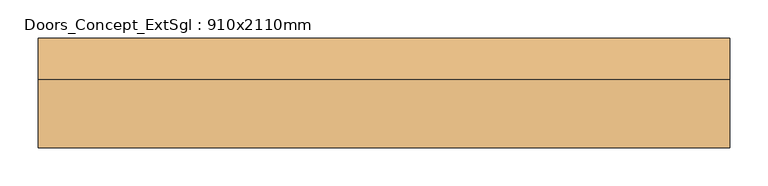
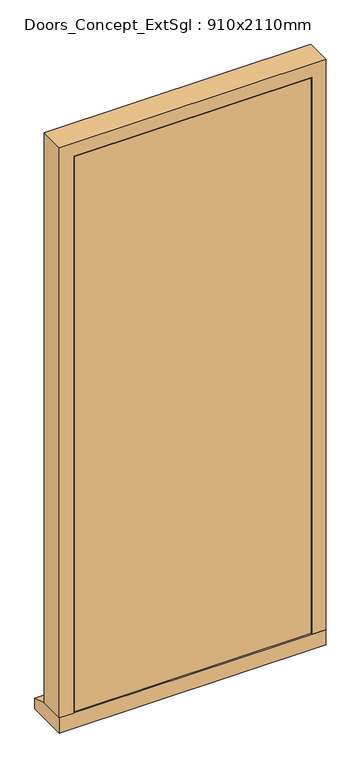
"""IFC4 building model written with IfcOpenShell, lengths in millimetres: door geometry, Doors_Concept_ExtSgl : 910x2110mm."""

import ifcopenshell
import ifcopenshell.guid

model = None  # the IFC model being written
_history = None  # IfcOwnerHistory: only IFC2X3 demands one
_inside = {}  # id of a spatial element -> (the spatial element, [elements in it])
_under = {}  # id of a project, library or spatial element -> (it, [spatial elements below it])
_declared = {}  # id of a project -> (the project, [libraries it declares])
_typed = {}  # id of a type object -> (the type object, [elements of that type])
_made_of = {}  # id of a material, layer set ... -> (it, [elements and type objects made of it])


def new_model(schema):
    """Start an empty IFC model of exactly this schema.

    Asked for "IFC4X3", IfcOpenShell would pick the latest addendum, in which some entities
    have other attributes; the version numbers below select the first issue.
    IFC2X3 requires an IfcOwnerHistory on every rooted entity: one is made here for all.
    """
    global model, _history
    if schema == "IFC4X3":
        model = ifcopenshell.file(schema_version=(4, 3, 0, 0))
    else:
        model = ifcopenshell.file(schema=schema)
    _inside.clear()
    _under.clear()
    _declared.clear()
    _typed.clear()
    _made_of.clear()
    _history = None
    if model.schema == "IFC2X3":
        org = make("IfcOrganization", Name="unknown")
        user = make(
            "IfcPersonAndOrganization",
            ThePerson=make("IfcPerson", FamilyName="unknown"),
            TheOrganization=org,
        )
        app = make(
            "IfcApplication",
            ApplicationDeveloper=org,
            Version="unknown",
            ApplicationFullName="unknown",
            ApplicationIdentifier="unknown",
        )
        _history = make(
            "IfcOwnerHistory",
            OwningUser=user,
            OwningApplication=app,
            ChangeAction="ADDED",
            CreationDate=0,
        )
    return model


def make(cls, **values):
    """One entity of the class cls with the attributes given. An attribute that is None is left unset."""
    return model.create_entity(
        cls, **{name: value for name, value in values.items() if value is not None}
    )


def rooted(cls, **values):
    """An entity with a GlobalId (a new one), such as an element, a storey or a relation."""
    return make(cls, GlobalId=ifcopenshell.guid.new(), OwnerHistory=_history, **values)


def si_unit(unit_type, name, prefix=None):
    """IfcSIUnit, for example si_unit("LENGTHUNIT", "METRE", prefix="MILLI")."""
    return make("IfcSIUnit", UnitType=unit_type, Prefix=prefix, Name=name)


def assignment(units):
    """IfcUnitAssignment: the units of a project."""
    return None if units is None else make("IfcUnitAssignment", Units=units)


def point(xyz):
    """IfcCartesianPoint."""
    return None if xyz is None else make("IfcCartesianPoint", Coordinates=xyz)


def direction(xyz):
    """IfcDirection."""
    return None if xyz is None else make("IfcDirection", DirectionRatios=xyz)


def frame(location, z_axis=None, x_axis=None):
    """IfcAxis2Placement3D, a coordinate frame: its origin and axes. An axis left out is left unset."""
    return make(
        "IfcAxis2Placement3D",
        Location=point(location),
        Axis=direction(z_axis),
        RefDirection=direction(x_axis),
    )


def origin():
    """The frame at (0, 0, 0) with its axes left unset."""
    return frame((0.0, 0.0, 0.0))


def place(relative_to, where):
    """IfcLocalPlacement: puts the frame where relative to a parent placement (None: the world)."""
    return make(
        "IfcLocalPlacement", PlacementRelTo=relative_to, RelativePlacement=where
    )


def context(
    kind, dimensions, precision=None, world=None, true_north=None, identifier=None
):
    """IfcGeometricRepresentationContext, for example the 3D "Model" context."""
    return make(
        "IfcGeometricRepresentationContext",
        ContextIdentifier=identifier,
        ContextType=kind,
        CoordinateSpaceDimension=dimensions,
        Precision=precision,
        WorldCoordinateSystem=world,
        TrueNorth=true_north,
    )


def project(units=None, contexts=None):
    """IfcProject with its units and contexts."""
    return rooted(
        "IfcProject",
        Name="project",
        RepresentationContexts=contexts,
        UnitsInContext=assignment(units),
    )


def spatial(cls, under=None, at=None, **own):
    """A site, building, storey or space (cls), placed at a placement, below another one or the project."""
    s = rooted(cls, ObjectPlacement=at, **own)
    if under is not None:
        _under.setdefault(under.id(), (under, []))[1].append(s)
    return s


def polyline(points):
    """IfcPolyline through the points."""
    return make("IfcPolyline", Points=[point(p) for p in points])


def outline(outer, holes=None, kind="AREA"):
    """IfcArbitraryClosedProfileDef: a profile drawn as a closed curve; with holes, ...WithVoids."""
    if holes is None:
        return make("IfcArbitraryClosedProfileDef", ProfileType=kind, OuterCurve=outer)
    return make(
        "IfcArbitraryProfileDefWithVoids",
        ProfileType=kind,
        OuterCurve=outer,
        InnerCurves=holes,
    )


def extrude(swept, where, along, depth):
    """IfcExtrudedAreaSolid: the profile swept, set in the frame where, extruded along a direction by depth."""
    return make(
        "IfcExtrudedAreaSolid",
        SweptArea=swept,
        Position=where,
        ExtrudedDirection=direction(along),
        Depth=depth,
    )


def faces_of(points, faces, orient=None, outer=None):
    """IfcFace entities. A face is a list of loops; a loop is a list of indices into points, from 0.

    orient and outer hold one flag for each loop. By default every Orientation is true, the
    first loop of a face is its IfcFaceOuterBound and the others are IfcFaceBound.
    """
    made = []
    for i, loops in enumerate(faces):
        bounds = []
        for j, loop in enumerate(loops):
            is_outer = j == 0 if outer is None else outer[i][j]
            bounds.append(
                make(
                    "IfcFaceOuterBound" if is_outer else "IfcFaceBound",
                    Bound=make("IfcPolyLoop", Polygon=[points[k] for k in loop]),
                    Orientation=True if orient is None else orient[i][j],
                )
            )
        made.append(make("IfcFace", Bounds=bounds))
    return made


def faceted_brep(points, faces, orient=None, outer=None, voids=None):
    """IfcFacetedBrep: a solid bounded by flat faces; with voids (closed shells), ...WithVoids."""
    shared = [point(p) for p in points]
    hull = make("IfcClosedShell", CfsFaces=faces_of(shared, faces, orient, outer))
    if voids is None:
        return make("IfcFacetedBrep", Outer=hull)
    return make(
        "IfcFacetedBrepWithVoids",
        Outer=hull,
        Voids=[
            make(cls, CfsFaces=faces_of(shared, fs, o, b)) for cls, fs, o, b in voids
        ],
    )


def shape(context_of_items, identifier, shape_type, items):
    """IfcShapeRepresentation: the items that make up one representation, for example the "Body"."""
    return make(
        "IfcShapeRepresentation",
        ContextOfItems=context_of_items,
        RepresentationIdentifier=identifier,
        RepresentationType=shape_type,
        Items=items,
    )


def source(mapping_origin, context_of_items, identifier, shape_type, items):
    """IfcRepresentationMap: a shape defined once, which mapped items show again and again."""
    return make(
        "IfcRepresentationMap",
        MappingOrigin=mapping_origin,
        MappedRepresentation=shape(context_of_items, identifier, shape_type, items),
    )


def transform(
    local_origin,
    x_axis=None,
    y_axis=None,
    z_axis=None,
    scale=None,
    scale2=None,
    scale3=None,
    uniform=True,
):
    """IfcCartesianTransformationOperator3D, or its non-uniform kind. x_axis, y_axis, z_axis: its Axis1, 2, 3."""
    if uniform:
        return make(
            "IfcCartesianTransformationOperator3D",
            Axis1=direction(x_axis),
            Axis2=direction(y_axis),
            LocalOrigin=point(local_origin),
            Scale=scale,
            Axis3=direction(z_axis),
        )
    return make(
        "IfcCartesianTransformationOperator3DnonUniform",
        Axis1=direction(x_axis),
        Axis2=direction(y_axis),
        LocalOrigin=point(local_origin),
        Scale=scale,
        Axis3=direction(z_axis),
        Scale2=scale2,
        Scale3=scale3,
    )


def mapped(mapping_source, mapping_target):
    """IfcMappedItem: shows the shape of a source again, moved by a transform."""
    return make(
        "IfcMappedItem", MappingSource=mapping_source, MappingTarget=mapping_target
    )


def made_of(thing, what):
    """Note that an element or type object is made of a material, layer set ...; save() writes the relation."""
    if what is not None:
        _made_of.setdefault(what.id(), (what, []))[1].append(thing)
    return thing


def element(
    cls,
    number,
    at=None,
    inside=None,
    cuts=None,
    type_object=None,
    material=None,
    context=None,
    identifier="Body",
    shape_type=None,
    held_by="IfcProductDefinitionShape",
    body=None,
    shapes=None,
    **own,
):
    """One element of the class cls, such as IfcWall. Its Tag is "e" and its number.

    at: its placement. inside: the storey or other place that contains it. cuts: it is an
    opening in that element (IfcRelVoidsElement). A single representation is given by context,
    identifier, shape_type and body (its items); several are given by shapes. held_by: the class
    of the entity that holds the representations. save() writes the other relations.
    """
    e = rooted(cls, Tag="e%d" % number, ObjectPlacement=at, **own)
    if body is not None:
        shapes = [shape(context, identifier, shape_type, body)]
    if shapes is not None:
        e.Representation = make(held_by, Representations=shapes)
    if inside is not None:
        _inside.setdefault(inside.id(), (inside, []))[1].append(e)
    if cuts is not None:
        rooted(
            "IfcRelVoidsElement", RelatingBuildingElement=cuts, RelatedOpeningElement=e
        )
    if type_object is not None:
        _typed.setdefault(type_object.id(), (type_object, []))[1].append(e)
    return made_of(e, material)


def aggregate(whole, parts):
    """IfcRelAggregates: a whole, such as a stair, and the parts it consists of."""
    return rooted("IfcRelAggregates", RelatingObject=whole, RelatedObjects=parts)


def save(model, path):
    """Write the relations noted so far, then the file.

    IfcRelAggregates (storeys below a building ...), IfcRelContainedInSpatialStructure (elements
    in a storey), IfcRelDefinesByType, IfcRelAssociatesMaterial and IfcRelDeclares: one each for
    every whole, place, type object, material and project.
    """
    for whole, parts in _under.values():
        aggregate(whole, parts)
    for where, things in _inside.values():
        rooted(
            "IfcRelContainedInSpatialStructure",
            RelatedElements=things,
            RelatingStructure=where,
        )
    for kind, things in _typed.values():
        rooted("IfcRelDefinesByType", RelatedObjects=things, RelatingType=kind)
    for what, things in _made_of.values():
        rooted("IfcRelAssociatesMaterial", RelatedObjects=things, RelatingMaterial=what)
    for by, libraries in _declared.values():
        rooted("IfcRelDeclares", RelatingContext=by, RelatedDefinitions=libraries)
    model.write(path)


def doors_concept_extsgl_910x2110mm_b510a08d(model_context):
    return source(origin(), model_context, "Body", "SolidModel", [
        faceted_brep([(384.5, 75.0, 54.5), (455.0, 75.0, 54.5), (455.0, -14.0, 54.5), (406.5, -14.0, 54.5), (406.5, 33.0, 54.5), (384.5, 33.0, 54.5), (384.5, 75.0, 2039.5), (-384.5, 75.0, 2039.5), (-384.5, 75.0, 54.5), (-455.0, 75.0, 54.5), (-455.0, 75.0, 2110.0), (455.0, 75.0, 2110.0), (455.0, -14.0, 2110.0), (-455.0, -14.0, 2110.0), (-455.0, -14.0, 54.5), (-406.5, -14.0, 54.5), (-406.5, -14.0, 2061.5), (406.5, -14.0, 2061.5), (406.5, 33.0, 2061.5), (-406.5, 33.0, 2061.5), (-406.5, 33.0, 54.5), (-384.5, 33.0, 54.5), (-384.5, 33.0, 2039.5), (384.5, 33.0, 2039.5)], [[[0, 1, 2, 3, 4, 5]], [[1, 0, 6, 7, 8, 9, 10, 11]], [[2, 1, 11, 12]], [[3, 2, 12, 13, 14, 15, 16, 17]], [[4, 3, 17, 18]], [[5, 4, 18, 19, 20, 21, 22, 23]], [[0, 5, 23, 6]], [[7, 22, 21, 8]], [[8, 21, 20, 15, 14, 9]], [[13, 10, 9, 14]], [[19, 16, 15, 20]], [[12, 11, 10, 13]], [[18, 17, 16, 19]], [[6, 23, 22, 7]]]),
        extrude(outline(polyline([(-14.0, 0.0), (-14.0, 54.5), (75.0, 54.5), (130.0, 38.5947221), (130.0, 0.0), (-14.0, 0.0)])), frame((-455.0, 0.0, 0.0), z_axis=(1.0, 0.0, 0.0), x_axis=(0.0, 1.0, 0.0)), (0.0, 0.0, 1.0), 910.0),
        extrude(outline(polyline([(403.5, -14.0), (-404.4250294, -14.0), (-404.4250294, 30.0), (403.5, 30.0), (403.5, -14.0)])), frame((0.0, 0.0, 58.5), z_axis=(0.0, 0.0, 1.0), x_axis=(1.0, 0.0, 0.0)), (0.0, 0.0, 1.0), 2000.0),
    ])


if __name__ == "__main__":
    model = new_model("IFC4")
    model_context = context("Model", 3, world=origin())
    ifc_project = project(units=[si_unit("LENGTHUNIT", "METRE", prefix="MILLI")], contexts=[model_context])
    site = spatial("IfcSite", under=ifc_project)
    building = spatial("IfcBuilding", under=site)
    placement = place(None, origin())
    doors_concept_extsgl_910x2110mm_shape = doors_concept_extsgl_910x2110mm_b510a08d(model_context)
    element("IfcDoor", 1, ObjectType="Doors_Concept_ExtSgl : 910x2110mm", at=placement, inside=building, context=model_context, shape_type="MappedRepresentation", body=[
        mapped(doors_concept_extsgl_910x2110mm_shape, transform((0.0, 0.0, 0.0), x_axis=(1.0, 0.0, 0.0), y_axis=(0.0, 1.0, 0.0), z_axis=(0.0, 0.0, 1.0))),
    ])
    save(model, "model.ifc")
